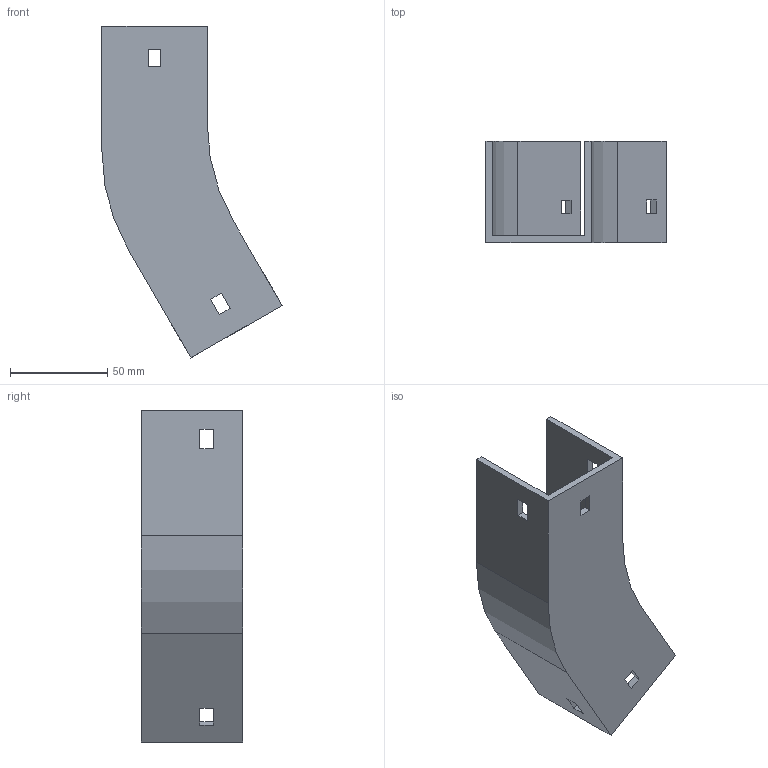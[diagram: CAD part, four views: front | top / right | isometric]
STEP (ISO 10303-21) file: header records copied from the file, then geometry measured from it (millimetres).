
FILE_DESCRIPTION (( 'STEP AP214' ), '1' );
FILE_NAME ('12B1B050.step', '2025-02-21T09:34:14', ( '' ), ( '' ), 'SwSTEP 2.0', 'SolidWorks 2023', '' );
FILE_SCHEMA (( 'AUTOMOTIVE_DESIGN' ));
Length unit declared in the file: millimetre
Products named in the file (1): 12B1B050
Bounding box: 92.4 x 52 x 170.3 mm (x, y, z)
Volume: 87012.2 mm3; surface area: 52639 mm2
Topology: 1 solids, 1 shells, 42 faces, 120 edges, 80 vertices
Faces by surface type: plane 38, cylinder 4
Entity records: 1399 total; most frequent: CARTESIAN_POINT 243, ORIENTED_EDGE 240, DIRECTION 214, EDGE_CURVE 120, VECTOR 112, LINE 112, VERTEX_POINT 80, EDGE_LOOP 54
